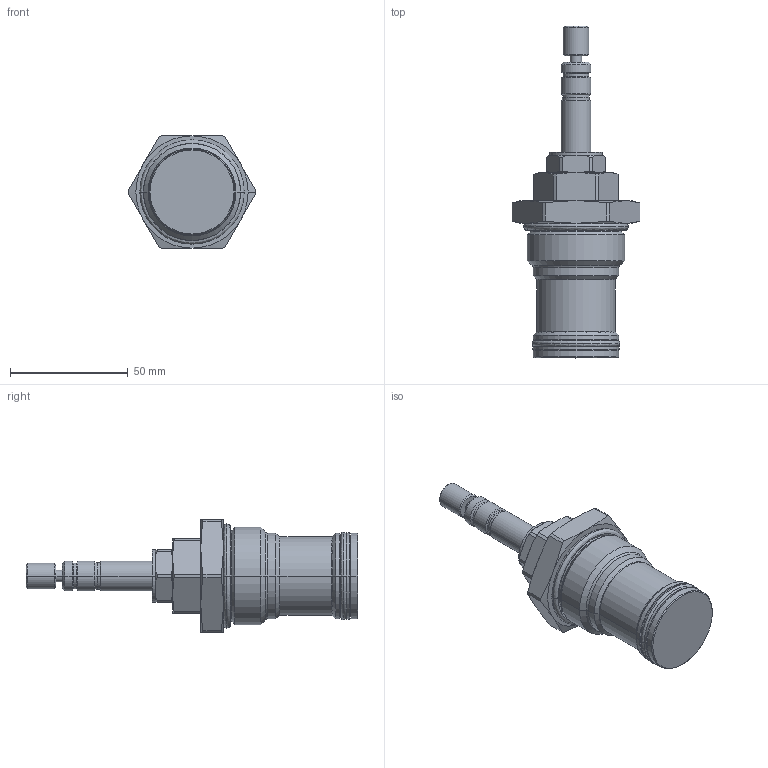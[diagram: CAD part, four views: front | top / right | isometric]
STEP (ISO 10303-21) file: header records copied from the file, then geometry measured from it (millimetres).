
FILE_DESCRIPTION((''),'2;1');
FILE_NAME('5073000_SW0003','2009-02-26T',('JCS'),(''),'PRO/ENGINEER BY PARAMETRIC TECHNOLOGY CORPORATION, 2008010','PRO/ENGINEER BY PARAMETRIC TECHNOLOGY CORPORATION, 2008010','');
FILE_SCHEMA(('CONFIG_CONTROL_DESIGN'));
Length unit declared in the file: inch
Products named in the file (1): 5073000_SW0003
Bounding box: 54.23 x 140.87 x 47.62 mm (x, y, z)
Volume: 98484 mm3; surface area: 20017.5 mm2
Topology: 4 solids, 4 shells, 209 faces, 471 edges, 280 vertices
Faces by surface type: cone 70, cylinder 69, plane 40, revolution 16, torus 14
Entity records: 6622 total; most frequent: CARTESIAN_POINT 1910, DIRECTION 1018, ORIENTED_EDGE 942, EDGE_CURVE 471, AXIS2_PLACEMENT_3D 430, VERTEX_POINT 280, CIRCLE 237, EDGE_LOOP 227
